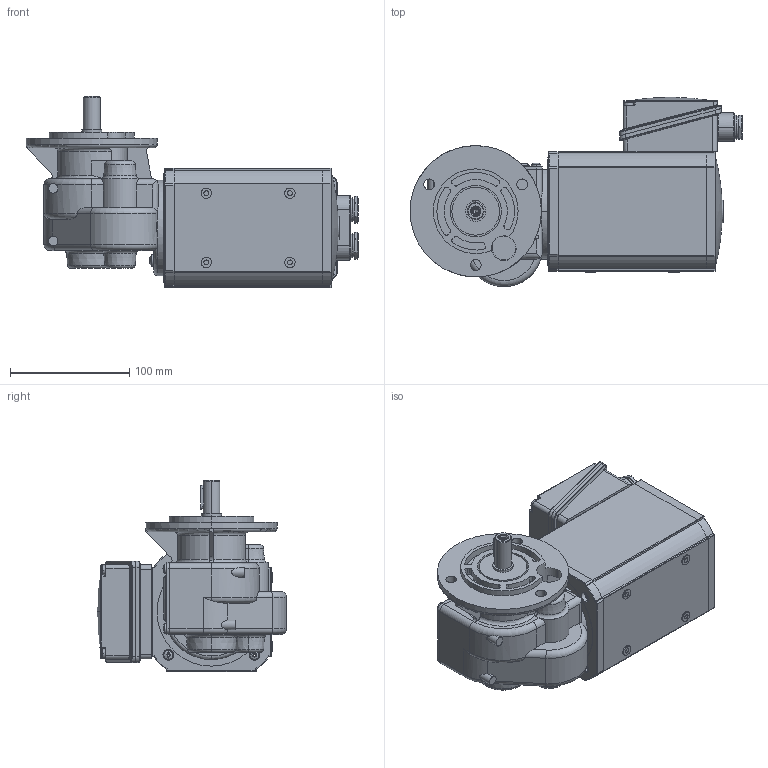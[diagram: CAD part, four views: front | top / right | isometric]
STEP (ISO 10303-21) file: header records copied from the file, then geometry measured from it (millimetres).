
FILE_DESCRIPTION(('STEP AP214'),'1');
FILE_NAME('Z:/TurboCAD/Motor-Getriebe-Kombinationen/Z20/tmp0.STP','2015-03-16T12:43:13',(' '),(' '),'Spatial InterOp 3D',' ',' ');
FILE_SCHEMA(('automotive_design'));
Length unit declared in the file: millimetre
Products named in the file (760): NONE; IGK80-40-without-foot-Z20_1 Groschopp|NAUO3#cross recessed thread forming screws gb_GB_CROSS_SCREWS_TYPE138 M5X12-N;NONE; IGK80-40-without-foot-Z20_1 Groschopp|NAUO4#cross recessed thread forming screws gb_GB_CROSS_SCREWS_TYPE138 M5X12-N;NONE; IGK80-40-without-foot-Z20_1 Groschopp|NAUO2#Z20_1 Groschopp;NONE
Bounding box: 278.08 x 158.5 x 160 mm (x, y, z)
Volume: 668587.7 mm3; surface area: 184327.1 mm2
Topology: 3 solids, 760 shells, 1169 faces, 4638 edges, 4242 vertices
Faces by surface type: cylinder 477, plane 450, torus 95, sphere 54, cone 52, bspline 41
Entity records: 90977 total; most frequent: CARTESIAN_POINT 24755, DIRECTION 9561, ORIENTED_EDGE 5691, EDGE_CURVE 4616, VERTEX_POINT 4242, AXIS2_PLACEMENT_3D 3733, LINE 2095, VECTOR 2095
